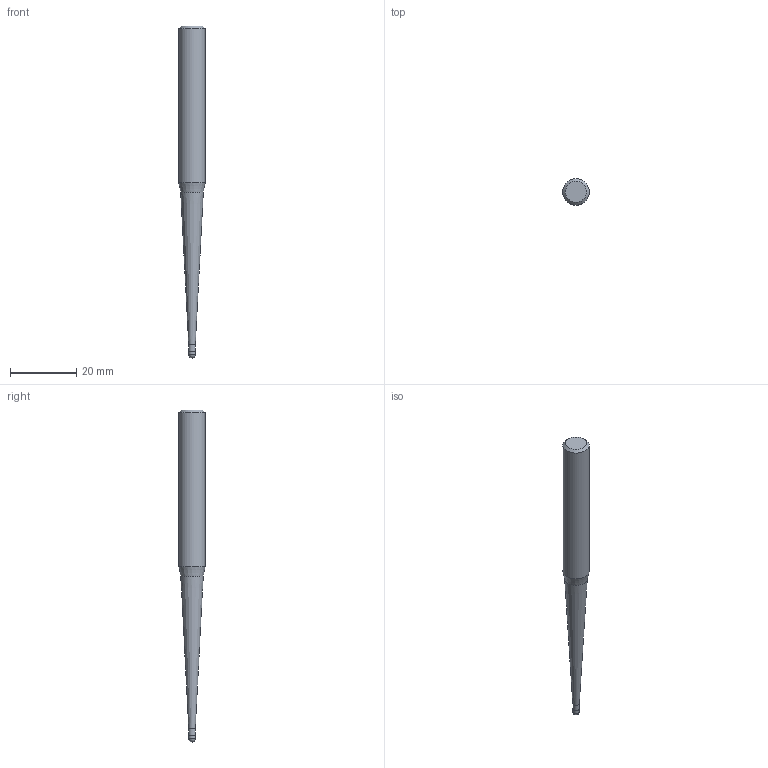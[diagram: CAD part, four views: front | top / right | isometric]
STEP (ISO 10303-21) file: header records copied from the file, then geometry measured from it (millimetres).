
FILE_DESCRIPTION((''),'2;1');
FILE_NAME('C:\Users\nsx150\AppData\Local\Temp\Mastercam 2021\SNAKH10GOD\TEMP.step','2021-10-21T13:33:19',(''),(''),'STEP Write','Mastercam 2021 ... CNC Software, Inc.','');
FILE_SCHEMA(('AUTOMOTIVE_DESIGN'));
Length unit declared in the file: millimetre
Products named in the file (1): None
Bounding box: 8 x 8 x 100 mm (x, y, z)
Volume: 3268.2 mm3; surface area: 1959 mm2
Topology: 2 solids, 2 shells, 10 faces, 16 edges, 9 vertices
Faces by surface type: plane 3, cylinder 3, cone 3, sphere 1
Full cylindrical faces by diameter (mm): 1.985 x1, 2 x1, 8 x1
Entity records: 232 total; most frequent: DIRECTION 40, CARTESIAN_POINT 28, AXIS2_PLACEMENT_3D 20, ORIENTED_EDGE 16, EDGE_LOOP 16, STYLED_ITEM 13, ADVANCED_FACE 10, FACE_BOUND 9
